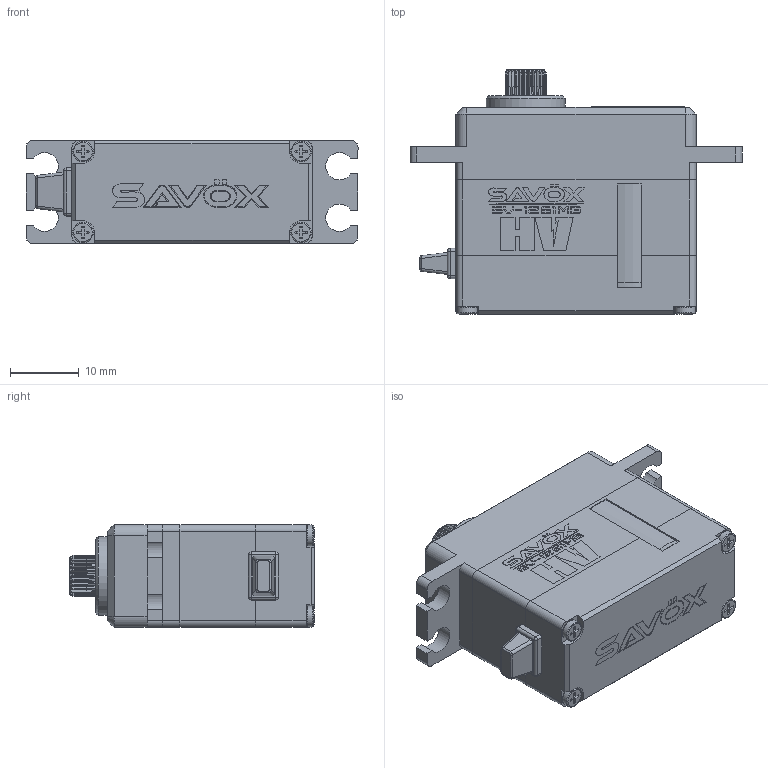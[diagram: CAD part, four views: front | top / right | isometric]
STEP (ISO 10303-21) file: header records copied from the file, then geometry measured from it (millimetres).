
FILE_DESCRIPTION (( 'STEP AP214' ), '1' );
FILE_NAME ('SV-1261MG_3D??+??.STEP', '2025-04-16T09:55:43', ( '' ), ( '' ), 'SwSTEP 2.0', 'SolidWorks 2024', '' );
FILE_SCHEMA (( 'AUTOMOTIVE_DESIGN' ));
Length unit declared in the file: millimetre
Products named in the file (1): SV-1261MG_3D零件+齒輪
Bounding box: 48.4 x 35.7 x 15.09 mm (x, y, z)
Volume: 16394.1 mm3; surface area: 4731.8 mm2
Topology: 1 solids, 1 shells, 583 faces, 2859 edges, 2385 vertices
Faces by surface type: plane 290, cylinder 154, cone 82, bspline 57
Full cylindrical faces by diameter (mm): 2.5 x1, 3 x4, 3.15 x1, 6.2 x1, 11.5 x1
Entity records: 39016 total; most frequent: CARTESIAN_POINT 10697, ORIENTED_EDGE 5662, DIRECTION 3305, EDGE_CURVE 2831, VERTEX_POINT 2379, LINE 1451, VECTOR 1451, B_SPLINE_CURVE_WITH_KNOTS 940
